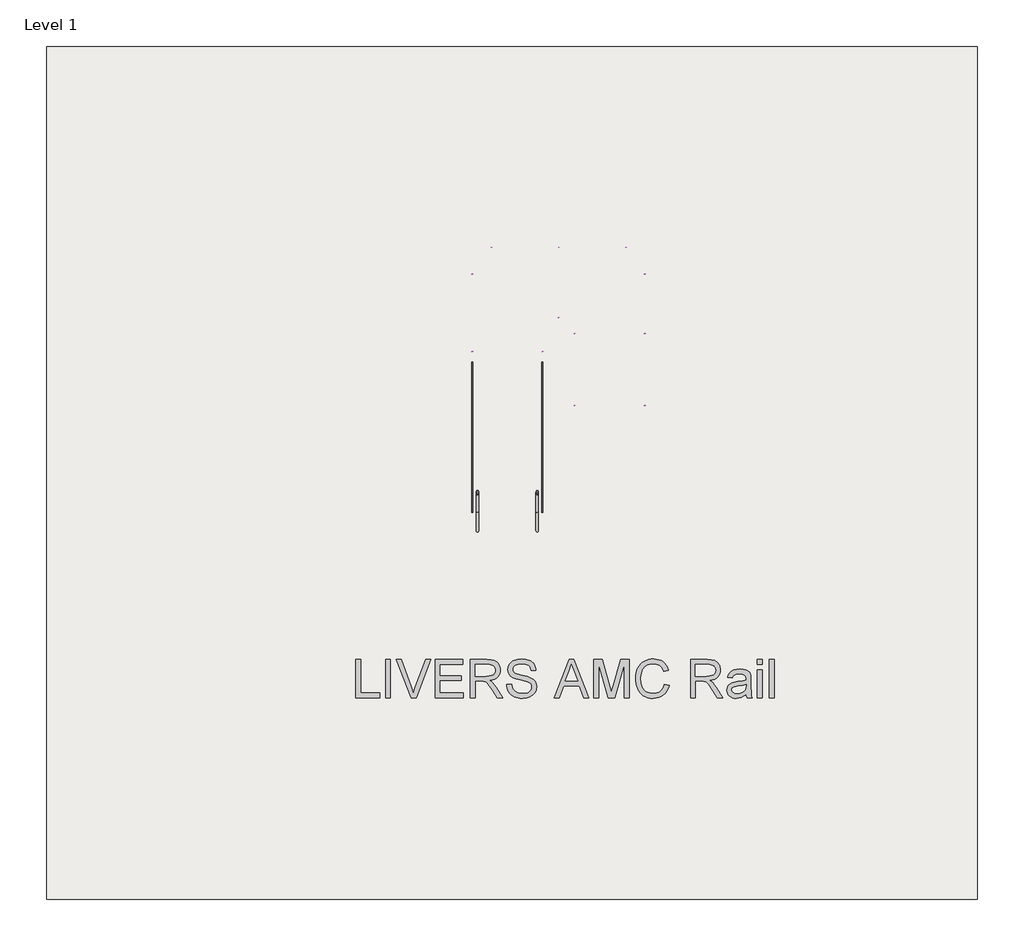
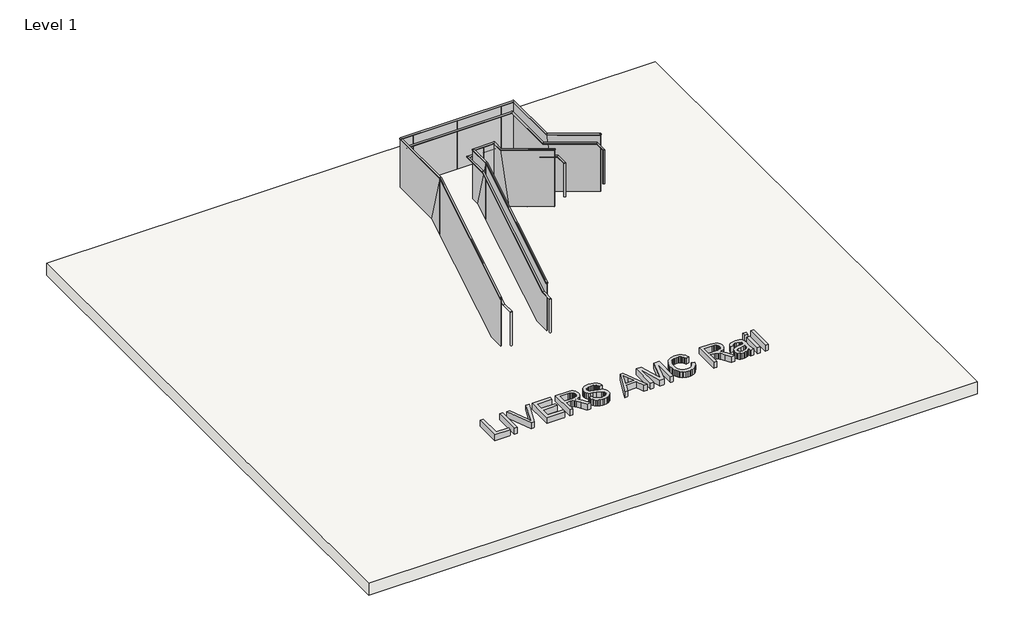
# One storey, incomplete: 15 proxies, 2 railings, 1 slab.
"""IFC4 building model written with IfcOpenShell, lengths in millimetres."""

from ifc_helpers import new_model, si_unit, frame, origin, origin_with_axes, place, context, project, spatial, polyline, circle_curve, ellipse_curve, outline, extrude, faceted_brep, transform, mapped, element, save
from ifc_brep_helpers import plane_surface, cylinder_surface, advanced_brep
from components import proxy_6f78a48f, proxy_2397db0d, proxy_ceb16a72, proxy_1c5ac6ef, proxy_60689a1d, proxy_a881e6c5, proxy_f612d073

model = new_model("IFC4")

# Units and contexts
model_context = context("Model", 3, world=origin())
ifc_project = project(units=[si_unit("LENGTHUNIT", "METRE", prefix="MILLI")], contexts=[model_context])

# Site, building, storey
site = spatial("IfcSite", under=ifc_project)
building = spatial("IfcBuilding", under=site)
storey = spatial("IfcBuildingStorey", under=building, Name="Level 1", Elevation=0.0)

# Proxies
placement = place(None, origin())
element("IfcBuildingElementProxy", 1, Name="24\" Arial", ObjectType="24\" Arial", at=placement, inside=storey, context=model_context, shape_type="SweptSolid", body=[
    extrude(outline(polyline([(7061.1001516, -636.9984238), (7061.1001516, -36.7768853), (7136.1278439, -36.7768853), (7136.1278439, -561.9707315), (7436.2386132, -561.9707315), (7436.2386132, -636.9984238), (7061.1001516, -636.9984238)])), origin_with_axes(), (0.0, 0.0, 1.0), 152.4),
    extrude(outline(polyline([(7530.0232286, -636.9984238), (7530.0232286, -36.7768853), (7605.0509209, -36.7768853), (7605.0509209, -636.9984238), (7530.0232286, -636.9984238)])), origin_with_axes(), (0.0, 0.0, 1.0), 152.4),
    extrude(outline(polyline([(7932.4178439, -636.9984238), (7693.5601516, -36.7768853), (7773.8632286, -36.7768853), (7933.7366901, -469.2118853), (7966.1216901, -566.6599622), (7998.0670747, -469.2118853), (8158.3801516, -36.7768853), (8238.6832286, -36.7768853), (8009.9366901, -636.9984238), (7932.4178439, -636.9984238)])), origin_with_axes(), (0.0, 0.0, 1.0), 152.4),
    extrude(outline(polyline([(8308.4355362, -636.9984238), (8308.4355362, -36.7768853), (8739.844767, -36.7768853), (8739.844767, -111.8045776), (8383.4632286, -111.8045776), (8383.4632286, -289.9953468), (8721.0878439, -289.9953468), (8721.0878439, -365.0230392), (8383.4632286, -365.0230392), (8383.4632286, -561.9707315), (8749.2232286, -561.9707315), (8749.2232286, -636.9984238), (8308.4355362, -636.9984238)])), origin_with_axes(), (0.0, 0.0, 1.0), 152.4),
    extrude(outline(polyline([(8861.764767, -636.9984238), (8861.764767, -36.7768853), (9120.4051516, -36.7768853), (9189.9193343, -40.8250103), (9240.4934209, -52.9693853), (9260.0105122, -62.6226065), (9277.4577478, -75.3897699), (9292.8351276, -91.2708757), (9306.1426516, -110.2659238), (9316.8811733, -131.3537242), (9324.5515459, -153.5130872), (9329.1537694, -176.7440127), (9330.6878439, -201.0465007), (9328.1463175, -231.8745295), (9320.5217382, -260.1747699), (9307.814106, -285.9472218), (9290.0234209, -309.1918853), (9266.9207165, -329.1669093), (9238.2770266, -345.130443), (9204.0923512, -357.0824863), (9164.3666901, -365.0230392), (9189.0950555, -381.1789045), (9207.0093824, -397.1149622), (9237.7458247, -433.5664045), (9267.8228439, -474.3407315), (9367.9086132, -636.9984238), (9280.7182286, -636.9984238), (9202.6132286, -512.5872699), (9146.1959209, -430.2326545), (9125.2226036, -406.2186642), (9106.557267, -391.326693), (9070.8751516, -377.039193), (9027.3532286, -374.4015007), (8936.7924593, -374.4015007), (8936.7924593, -636.9984238), (8861.764767, -636.9984238)]), holes=[polyline([(8936.7924593, -299.3738084), (9104.7255362, -299.3738084), (9152.9550074, -296.7177988), (9190.377267, -288.7497699), (9218.5492862, -274.9385199), (9239.0280362, -254.7528468), (9251.5021228, -230.3358757), (9255.6601516, -203.8307315), (9253.6773031, -184.6433517), (9247.7287574, -167.2327507), (9237.8145146, -151.5989286), (9223.9345747, -137.7418853), (9205.7683848, -126.3943132), (9182.995392, -118.2889045), (9155.6155963, -113.4256593), (9123.6289978, -111.8045776), (8936.7924593, -111.8045776), (8936.7924593, -299.3738084)])]), origin_with_axes(), (0.0, 0.0, 1.0), 152.4),
    extrude(outline(polyline([(9433.8509209, -430.6722699), (9508.8786132, -430.6722699), (9517.4877478, -472.3075103), (9533.0574593, -505.7732315), (9557.3462093, -532.3333276), (9592.1124593, -553.251693), (9634.6086132, -566.824818), (9682.0870747, -571.349193), (9723.8871709, -567.9238565), (9760.4851516, -557.6478468), (9790.1408728, -541.3820776), (9811.1141901, -519.9874622), (9823.5882766, -495.4239526), (9827.7463055, -469.6515007), (9824.6323632, -444.5384718), (9815.2905362, -422.8324622), (9796.3138055, -404.3136642), (9764.2951516, -388.7622699), (9655.0507286, -360.1140007), (9583.3384689, -341.1555872), (9537.4536132, -323.1130392), (9500.1046228, -297.8717892), (9473.6361132, -267.2818853), (9457.8649112, -232.0027507), (9452.6078439, -192.6938084), (9454.233505, -170.3512723), (9459.1104882, -148.7505872), (9467.2387935, -127.8917531), (9478.6184209, -107.7747699), (9493.1211492, -89.2193372), (9510.6187574, -73.0451545), (9531.1112454, -59.2522218), (9554.5986132, -47.8405392), (9607.3890939, -32.5089526), (9665.8213055, -27.3984238), (9729.1259209, -32.7470776), (9784.5174593, -48.7930392), (9808.7512574, -60.7450824), (9830.0176516, -75.2065968), (9848.316642, -92.1775824), (9863.6482286, -111.6580392), (9875.8933487, -133.0801305), (9884.9329401, -155.8760199), (9890.7670026, -180.0457074), (9893.3955362, -205.589193), (9818.3678439, -205.589193), (9813.3489016, -181.6484718), (9804.5932286, -160.821693), (9792.1008247, -143.1088565), (9775.8716901, -128.5099622), (9755.6035891, -117.0982795), (9730.9942862, -108.9470776), (9702.0437814, -104.0563565), (9668.7520747, -102.4261161), (9634.3979641, -104.0380392), (9605.0444786, -108.8738084), (9580.691618, -116.9334238), (9561.3393824, -128.2168853), (9546.5939497, -141.7808517), (9536.0614978, -156.6819815), (9529.7420266, -172.9202747), (9527.6355362, -190.4957315), (9529.1283968, -205.616669), (9533.6069786, -219.3271738), (9541.0712814, -231.6272459), (9551.5213055, -242.5168853), (9567.9702478, -252.8295295), (9593.8709209, -263.2520776), (9674.0274593, -284.4268853), (9756.7484209, -304.5392892), (9806.7913055, -322.0872699), (9849.5622189, -349.3067892), (9866.0981685, -365.3069574), (9879.4011132, -382.9007315), (9889.6267502, -401.9965247), (9896.9307766, -422.5027507), (9902.7739978, -467.7465007), (9901.0933848, -491.2155512), (9896.0515459, -513.9977026), (9887.648481, -536.092955), (9875.8841901, -557.5013084), (9860.964743, -577.3939045), (9843.0962093, -594.9418853), (9822.2785891, -610.1452507), (9798.5118824, -623.0040007), (9772.4875675, -633.2296377), (9744.8971228, -640.5336642), (9685.0178439, -646.3768853), (9646.638505, -644.8015968), (9611.5104882, -640.0757315), (9579.6337935, -632.1992892), (9551.0084209, -621.1722699), (9525.460356, -606.9763565), (9502.8155843, -589.5932315), (9483.074106, -569.0228949), (9466.2359209, -545.2653468), (9452.6719545, -519.0899142), (9442.7531324, -491.2659238), (9436.4794545, -461.7933757), (9433.8509209, -430.6722699)])), origin_with_axes(), (0.0, 0.0, 1.0), 152.4),
    extrude(outline(polyline([(10179.8782286, -636.9984238), (10419.4686132, -36.7768853), (10483.3593824, -36.7768853), (10722.949767, -636.9984238), (10643.6724593, -636.9984238), (10574.9459209, -449.429193), (10327.7355362, -449.429193), (10259.1555362, -636.9984238), (10179.8782286, -636.9984238)]), holes=[polyline([(10355.284767, -374.4015007), (10547.5432286, -374.4015007), (10493.4705362, -226.8372699), (10451.4139978, -111.8045776), (10414.0466901, -213.9418853), (10355.284767, -374.4015007)])]), origin_with_axes(), (0.0, 0.0, 1.0), 152.4),
    extrude(outline(polyline([(10803.1063055, -636.9984238), (10803.1063055, -36.7768853), (10932.2066901, -36.7768853), (11055.0059209, -459.8334238), (11079.7709209, -548.1961161), (11106.5874593, -452.5065007), (11227.3351516, -36.7768853), (11356.4355362, -36.7768853), (11356.4355362, -636.9984238), (11281.4078439, -636.9984238), (11281.4078439, -111.8045776), (11130.619767, -636.9984238), (11028.9220747, -636.9984238), (10878.1339978, -111.8045776), (10878.1339978, -636.9984238), (10803.1063055, -636.9984238)])), origin_with_axes(), (0.0, 0.0, 1.0), 152.4),
    extrude(outline(polyline([(11909.764767, -423.6384238), (11984.7924593, -442.9815007), (11969.9462814, -489.6402627), (11950.1727478, -530.4100103), (11925.4718584, -565.2907435), (11895.8436132, -594.2824622), (11861.9565939, -617.0737723), (11824.4793824, -633.3532795), (11783.4119786, -643.1209839), (11738.7543824, -646.3768853), (11693.0023271, -643.9132074), (11651.7288536, -636.5221738), (11614.9339617, -624.2037843), (11582.6176516, -606.9580392), (11554.3357286, -585.0413805), (11529.6439978, -558.7102507), (11508.5424593, -527.9646497), (11491.0311132, -492.8045776), (11477.2793944, -454.7503709), (11467.4567382, -415.3223661), (11461.5631444, -374.5205632), (11459.5986132, -332.3449622), (11461.8195867, -287.0920536), (11468.4825074, -244.8248661), (11479.5873752, -205.5433997), (11495.1341901, -169.2476545), (11514.7749233, -136.5375223), (11538.1615459, -108.0128949), (11565.2940579, -83.6737723), (11596.1724593, -63.5201545), (11629.7480843, -47.7168973), (11664.972267, -36.4288565), (11701.8450074, -29.6560319), (11740.3663055, -27.3984238), (11783.2791781, -30.3200343), (11822.6293343, -39.0848661), (11858.4167742, -53.692919), (11890.6414978, -74.144193), (11918.7723031, -99.8983276), (11942.2779882, -130.4149622), (11961.1585531, -165.6940968), (11975.4139978, -205.7357315), (11900.3863055, -223.6134238), (11888.571642, -194.1088204), (11874.3757286, -168.8996257), (11857.7985651, -147.9858396), (11838.8401516, -131.3674622), (11817.3905843, -118.7056233), (11793.3399593, -109.6614526), (11766.6882766, -104.2349502), (11737.4355362, -102.4261161), (11703.7774834, -104.4318613), (11672.9952478, -110.4490968), (11645.0888295, -120.4778228), (11620.0582286, -134.5180392), (11598.2194185, -151.9377988), (11579.8883728, -172.1051545), (11565.0650915, -195.0201065), (11553.7495747, -220.6826545), (11539.4071228, -275.597943), (11534.6263055, -332.1984238), (11540.2863536, -401.5111161), (11547.3614137, -432.6505392), (11557.2664978, -461.4453468), (11570.1618824, -487.3231233), (11586.2078439, -509.7114526), (11605.4043824, -528.6103348), (11627.7514978, -544.0197699), (11652.1638896, -555.9763925), (11677.5562574, -564.5168372), (11703.9286012, -569.6411041), (11731.2809209, -571.349193), (11763.8994665, -569.0228949), (11793.9077959, -562.0440007), (11821.3059088, -550.4125103), (11846.0938055, -534.1284238), (11867.6853319, -513.2650103), (11885.4943343, -487.8955392), (11899.5208127, -458.0200103), (11909.764767, -423.6384238)])), origin_with_axes(), (0.0, 0.0, 1.0), 152.4),
    extrude(outline(polyline([(12322.4170747, -636.9984238), (12322.4170747, -36.7768853), (12581.0574593, -36.7768853), (12650.571642, -40.8250103), (12701.1457286, -52.9693853), (12720.6628199, -62.6226065), (12738.1100555, -75.3897699), (12753.4874353, -91.2708757), (12766.7949593, -110.2659238), (12777.533481, -131.3537242), (12785.2038536, -153.5130872), (12789.8060771, -176.7440127), (12791.3401516, -201.0465007), (12788.7986252, -231.8745295), (12781.1740459, -260.1747699), (12768.4664137, -285.9472218), (12750.6757286, -309.1918853), (12727.5730242, -329.1669093), (12698.9293343, -345.130443), (12664.7446588, -357.0824863), (12625.0189978, -365.0230392), (12649.7473632, -381.1789045), (12667.6616901, -397.1149622), (12698.3981324, -433.5664045), (12728.4751516, -474.3407315), (12828.5609209, -636.9984238), (12741.3705362, -636.9984238), (12663.2655362, -512.5872699), (12606.8482286, -430.2326545), (12585.8749112, -406.2186642), (12567.2095747, -391.326693), (12531.5274593, -377.039193), (12488.0055362, -374.4015007), (12397.444767, -374.4015007), (12397.444767, -636.9984238), (12322.4170747, -636.9984238)]), holes=[polyline([(12397.444767, -299.3738084), (12565.3778439, -299.3738084), (12613.6073151, -296.7177988), (12651.0295747, -288.7497699), (12679.2015939, -274.9385199), (12699.6803439, -254.7528468), (12712.1544305, -230.3358757), (12716.3124593, -203.8307315), (12714.3296108, -184.6433517), (12708.3810651, -167.2327507), (12698.4668223, -151.5989286), (12684.5868824, -137.7418853), (12666.4206925, -126.3943132), (12643.6476997, -118.2889045), (12616.267904, -113.4256593), (12584.2813055, -111.8045776), (12397.444767, -111.8045776), (12397.444767, -299.3738084)])]), origin_with_axes(), (0.0, 0.0, 1.0), 152.4),
    extrude(outline(polyline([(13194.6139978, -580.7276545), (13158.7670266, -611.4640968), (13121.8576516, -631.5765007), (13083.0432766, -642.6767892), (13041.4813055, -646.3768853), (13008.0751156, -644.1513324), (12978.7811612, -637.4746738), (12953.5994425, -626.3469093), (12932.5299593, -610.7680392), (12915.8932646, -591.7271978), (12904.0099112, -570.2135199), (12896.8798992, -546.2270055), (12894.5032286, -519.7676545), (12898.0934209, -488.6648661), (12908.8639978, -460.4195776), (12925.4777959, -436.2407315), (12946.5976516, -417.3372699), (12971.4176036, -403.0497699), (12999.1316901, -392.7188084), (13064.0482286, -381.4353468), (13140.7611132, -369.5657315), (13194.1743824, -355.6445776), (13194.6139978, -338.939193), (13189.448517, -305.4551545), (13182.9916661, -293.0543372), (13173.9520747, -283.5476545), (13158.3274112, -274.0592892), (13139.2957286, -267.2818853), (13091.0113055, -261.8599622), (13046.3170747, -265.4684718), (13015.1043824, -276.2940007), (12993.8196709, -296.314818), (12978.9093824, -327.509193), (12903.8816901, -318.1307315), (12916.9052959, -277.0999622), (12936.3399593, -244.8615007), (12963.9990939, -220.2064045), (13001.6961132, -201.9257315), (13047.8007766, -190.6056353), (13100.6828439, -186.8322699), (13151.4034689, -190.1660199), (13191.6099593, -200.1672699), (13221.9251036, -215.2057795), (13242.9716901, -233.6513084), (13256.9294786, -256.4563565), (13265.9782286, -284.5734238), (13269.6416901, -350.2226545), (13269.6416901, -443.5676545), (13273.4516901, -573.9136161), (13279.0934209, -606.1337603), (13288.3986132, -636.9984238), (13213.3709209, -636.9984238), (13201.354767, -610.9145776), (13194.6139978, -580.7276545)]), holes=[polyline([(13194.6139978, -430.6722699), (13144.204767, -443.1646738), (13073.5732286, -453.6788084), (13009.0230362, -465.8415007), (12992.2260651, -474.1575584), (12979.7886132, -485.624193), (12972.0953439, -499.3621738), (12969.5309209, -514.4922699), (12975.1176997, -536.8027507), (12991.8780362, -555.0834238), (13019.4455843, -567.2827507), (13057.4539978, -571.349193), (13097.7520747, -566.8614526), (13133.3609209, -553.3982315), (13162.2289978, -533.5605872), (13182.304767, -509.9495776), (13191.2069786, -485.624193), (13194.1743824, -451.9203468), (13194.6139978, -430.6722699)])]), origin_with_axes(), (0.0, 0.0, 1.0), 152.4),
    extrude(outline(polyline([(13372.804767, -636.9984238), (13372.804767, -196.2107315), (13447.8324593, -196.2107315), (13447.8324593, -636.9984238), (13372.804767, -636.9984238)])), origin_with_axes(), (0.0, 0.0, 1.0), 152.4),
    extrude(outline(polyline([(13372.804767, -111.8045776), (13372.804767, -36.7768853), (13447.8324593, -36.7768853), (13447.8324593, -111.8045776), (13372.804767, -111.8045776)])), origin_with_axes(), (0.0, 0.0, 1.0), 152.4),
    extrude(outline(polyline([(13560.3739978, -636.9984238), (13560.3739978, -36.7768853), (13635.4016901, -36.7768853), (13635.4016901, -636.9984238), (13560.3739978, -636.9984238)])), origin_with_axes(), (0.0, 0.0, 1.0), 152.4),
])
proxy_shape = proxy_6f78a48f(model_context)
element("IfcBuildingElementProxy", 2, Name="GLASS : 1/2\" GLASS", ObjectType="GLASS : 1/2\" GLASS", at=placement, inside=storey, context=model_context, shape_type="MappedRepresentation", body=[
    mapped(proxy_shape, transform((9188.3984545, 6443.2609109, 2722.0333333), x_axis=(1.0, 0.0, 0.0), y_axis=(0.0, 0.0, 1.0), z_axis=(0.0, -1.0, 0.0))),
])
element("IfcBuildingElementProxy", 3, Name="GLASS : 1/2\" GLASS", ObjectType="GLASS : 1/2\" GLASS", at=placement, inside=storey, context=model_context, shape_type="MappedRepresentation", body=[
    mapped(proxy_shape, transform((10247.2074566, 6443.2609109, 2722.0333333), x_axis=(1.0, 0.0, 0.0), y_axis=(0.0, 0.0, 1.0), z_axis=(0.0, -1.0, 0.0))),
])
element("IfcBuildingElementProxy", 4, Name="GLASS : 1/2\" GLASS", ObjectType="GLASS : 1/2\" GLASS", at=placement, inside=storey, context=model_context, shape_type="MappedRepresentation", body=[
    mapped(proxy_shape, transform((11604.4664586, 6024.2007237, 2722.0333333), x_axis=(0.0, -1.0, 0.0), y_axis=(0.0, 0.0, 1.0), z_axis=(-1.0, 0.0, 0.0))),
])
element("IfcBuildingElementProxy", 5, Name="GLASS : 1/2\" GLASS", ObjectType="GLASS : 1/2\" GLASS", at=placement, inside=storey, context=model_context, shape_type="MappedRepresentation", body=[
    mapped(proxy_shape, transform((11604.4664586, 5087.1978242, 2722.0333333), x_axis=(0.0, -1.0, 0.0), y_axis=(0.0, 0.0, 1.0), z_axis=(-1.0, 0.0, 0.0))),
])
element("IfcBuildingElementProxy", 6, Name="GLASS : 1/2\" GLASS", ObjectType="GLASS : 1/2\" GLASS", at=placement, inside=storey, context=model_context, shape_type="MappedRepresentation", body=[
    mapped(proxy_shape, transform((10247.2074566, 5338.3609109, 2722.0333333), x_axis=(-1.0, 0.0, 0.0), y_axis=(0.0, 0.0, 1.0), z_axis=(0.0, 1.0, 0.0))),
])
element("IfcBuildingElementProxy", 7, Name="GLASS : 1/2\" GLASS", ObjectType="GLASS : 1/2\" GLASS", at=placement, inside=storey, context=model_context, shape_type="MappedRepresentation", body=[
    mapped(proxy_shape, transform((10499.5664586, 5086.6546682, 2722.0333333), x_axis=(0.0, 1.0, 0.0), y_axis=(0.0, 0.0, 1.0), z_axis=(1.0, 0.0, 0.0))),
])
element("IfcBuildingElementProxy", 8, Name="GLASS : 1/2\" GLASS", ObjectType="GLASS : 1/2\" GLASS", at=placement, inside=storey, context=model_context, shape_type="MappedRepresentation", body=[
    mapped(proxy_shape, transform((8889.9484545, 6024.1609109, 2722.0333333), x_axis=(0.0, 1.0, 0.0), y_axis=(0.0, 0.0, 1.0), z_axis=(1.0, 0.0, 0.0))),
])
element("IfcBuildingElementProxy", 9, Name="GLASS : 1/2\" GLASS", ObjectType="GLASS : 1/2\" GLASS", at=placement, inside=storey, context=model_context, shape_type="MappedRepresentation", body=[
    mapped(proxy_shape, transform((11306.0386109, 6443.2609109, 2722.0333333), x_axis=(1.0, 0.0, 0.0), y_axis=(0.0, 0.0, 1.0), z_axis=(0.0, -1.0, 0.0))),
])
proxy_2_shape = proxy_2397db0d(model_context)
element("IfcBuildingElementProxy", 10, Name="GLASS : 1/2\" GLASS", ObjectType="GLASS : 1/2\" GLASS", at=placement, inside=storey, context=model_context, shape_type="MappedRepresentation", body=[
    mapped(proxy_2_shape, transform((8889.9484545, 3617.3256141, 2014.1526529), x_axis=(0.0, 1.0, 0.0), y_axis=(0.0, 0.0, 1.0), z_axis=(1.0, 0.0, 0.0))),
])
proxy_3_shape = proxy_ceb16a72(model_context)
element("IfcBuildingElementProxy", 11, Name="GLASS : 1/2\" GLASS", ObjectType="GLASS : 1/2\" GLASS", at=placement, inside=storey, context=model_context, shape_type="MappedRepresentation", body=[
    mapped(proxy_3_shape, transform((8889.9484545, 4806.5440435, 2722.0333333), x_axis=(0.0, 1.0, 0.0), y_axis=(0.0, 0.0, 1.0), z_axis=(1.0, 0.0, 0.0))),
])
proxy_4_shape = proxy_1c5ac6ef(model_context)
element("IfcBuildingElementProxy", 12, Name="GLASS : 1/2\" GLASS", ObjectType="GLASS : 1/2\" GLASS", at=placement, inside=storey, context=model_context, shape_type="MappedRepresentation", body=[
    mapped(proxy_4_shape, transform((9994.8484545, 3625.1929733, 2016.1913432), x_axis=(0.0, -1.0, 0.0), y_axis=(0.0, 0.0, 1.0), z_axis=(-1.0, 0.0, 0.0))),
])
proxy_5_shape = proxy_60689a1d(model_context)
element("IfcBuildingElementProxy", 13, Name="GLASS : 1/2\" GLASS", ObjectType="GLASS : 1/2\" GLASS", at=placement, inside=storey, context=model_context, shape_type="MappedRepresentation", body=[
    mapped(proxy_5_shape, transform((9994.8484545, 4806.5440435, 2722.0333333), x_axis=(0.0, -1.0, 0.0), y_axis=(0.0, 0.0, 1.0), z_axis=(-1.0, 0.0, 0.0))),
])
proxy_6_shape = proxy_a881e6c5(model_context)
element("IfcBuildingElementProxy", 14, Name="GLASS : 1/2\" GLASS", ObjectType="GLASS : 1/2\" GLASS", at=placement, inside=storey, context=model_context, shape_type="MappedRepresentation", body=[
    mapped(proxy_6_shape, transform((10499.5664586, 3958.4097675, 3395.2590846), x_axis=(0.0, 1.0, 0.0), y_axis=(0.0, 0.0, 1.0), z_axis=(1.0, 0.0, 0.0))),
])
proxy_7_shape = proxy_f612d073(model_context)
element("IfcBuildingElementProxy", 15, Name="GLASS : 1/2\" GLASS", ObjectType="GLASS : 1/2\" GLASS", at=placement, inside=storey, context=model_context, shape_type="MappedRepresentation", body=[
    mapped(proxy_7_shape, transform((11604.4664586, 3957.5391996, 3395.7867016), x_axis=(0.0, -1.0, 0.0), y_axis=(0.0, 0.0, 1.0), z_axis=(-1.0, 0.0, 0.0))),
])

# Railings
element("IfcRailing", 16, ObjectType="LIVERS_AMC - Rail", at=placement, inside=storey, context=model_context, shape_type="SolidModel", body=[
    advanced_brep(
    [(8991.5484545, 1989.4822571, 169.3333333), (8953.4484545, 1989.4822571, 169.3333333), (8991.5484545, 1989.4822571, 1013.8833333), (8953.4484545, 1989.4822571, 1013.8833333), (8991.5484545, 2280.5544107, 1013.8833333), (8953.4484545, 2280.5544107, 1013.8833333), (8991.5484545, 4795.1544107, 2537.8833333), (8953.4484545, 4795.1544107, 2537.8833333), (8991.5484545, 6341.6609109, 2537.8833333), (8953.4484545, 6379.7609109, 2537.8833333), (11502.8664586, 6341.6609109, 2537.8833333), (11540.9664586, 6379.7609109, 2537.8833333), (11502.8664586, 5063.9101036, 2537.8833333), (11540.9664586, 5063.9101036, 2537.8833333), (11502.8664586, 2828.7101036, 3892.55), (11540.9664586, 2828.7101036, 3892.55), (11502.8664586, 2548.2822571, 3892.55), (11540.9664586, 2548.2822571, 3892.55), (11502.8664586, 2548.2822571, 3048.0), (11540.9664586, 2548.2822571, 3048.0)],
    [
        (0, 1, circle_curve(frame((8972.4984545, 1989.4822571, 169.3333333), z_axis=(0.0, 0.0, -1.0), x_axis=(-1.0, 0.0, 0.0)), 19.05)),
        (1, 0, circle_curve(frame((8972.4984545, 1989.4822571, 169.3333333), z_axis=(0.0, 0.0, -1.0), x_axis=(-1.0, 0.0, 0.0)), 19.05)),
        (0, 2),
        (2, 3, ellipse_curve(frame((8972.4984545, 1989.4822571, 1013.8833333), z_axis=(0.0, -0.7071067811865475, -0.7071067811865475), x_axis=(0.0, 0.7071067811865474, -0.7071067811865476)), 26.9407684, 19.05)),
        (3, 1),
        (3, 2, ellipse_curve(frame((8972.4984545, 1989.4822571, 1013.8833333), z_axis=(0.0, -0.7071067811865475, -0.7071067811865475), x_axis=(0.0, 0.7071067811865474, -0.7071067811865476)), 26.9407684, 19.05)),
        (2, 4),
        (4, 5, ellipse_curve(frame((8972.4984545, 2280.5544107, 1013.8833333), z_axis=(0.0, -0.9631193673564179, -0.2690744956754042), x_axis=(0.0, -0.26907449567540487, 0.9631193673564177)), 19.7794797, 19.05)),
        (5, 3),
        (5, 4, ellipse_curve(frame((8972.4984545, 2280.5544107, 1013.8833333), z_axis=(0.0, -0.9631193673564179, -0.2690744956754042), x_axis=(0.0, -0.26907449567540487, 0.9631193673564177)), 19.7794797, 19.05)),
        (4, 6),
        (6, 7, ellipse_curve(frame((8972.4984545, 4795.1544107, 2537.8833333), z_axis=(0.0, -0.9631193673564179, -0.2690744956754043), x_axis=(0.0, 0.2690744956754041, -0.9631193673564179)), 19.7794797, 19.05)),
        (7, 5),
        (7, 6, ellipse_curve(frame((8972.4984545, 4795.1544107, 2537.8833333), z_axis=(0.0, -0.9631193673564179, -0.2690744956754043), x_axis=(0.0, 0.2690744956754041, -0.9631193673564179)), 19.7794797, 19.05)),
        (6, 8),
        (8, 9, ellipse_curve(frame((8972.4984545, 6360.7109109, 2537.8833333), z_axis=(-0.7071067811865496, -0.7071067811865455, 0.0), x_axis=(0.7071067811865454, -0.7071067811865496, 0.0)), 26.9407684, 19.05)),
        (9, 7),
        (9, 8, ellipse_curve(frame((8972.4984545, 6360.7109109, 2537.8833333), z_axis=(-0.7071067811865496, -0.7071067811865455, 0.0), x_axis=(0.7071067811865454, -0.7071067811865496, 0.0)), 26.9407684, 19.05)),
        (8, 10),
        (10, 11, ellipse_curve(frame((11521.9164586, 6360.7109109, 2537.8833333), z_axis=(-0.7071067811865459, 0.7071067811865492, 0.0), x_axis=(-0.707106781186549, -0.7071067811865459, 0.0)), 26.9407684, 19.05)),
        (11, 9),
        (11, 10, ellipse_curve(frame((11521.9164586, 6360.7109109, 2537.8833333), z_axis=(-0.7071067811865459, 0.7071067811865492, 0.0), x_axis=(-0.707106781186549, -0.7071067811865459, 0.0)), 26.9407684, 19.05)),
        (10, 12),
        (12, 13, ellipse_curve(frame((11521.9164586, 5063.9101036, 2537.8833333), z_axis=(0.0, 0.9631193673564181, -0.26907449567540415), x_axis=(0.0, 0.26907449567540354, 0.9631193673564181)), 19.7794797, 19.05)),
        (13, 11),
        (13, 12, ellipse_curve(frame((11521.9164586, 5063.9101036, 2537.8833333), z_axis=(0.0, 0.9631193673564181, -0.26907449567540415), x_axis=(0.0, 0.26907449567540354, 0.9631193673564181)), 19.7794797, 19.05)),
        (12, 14),
        (14, 15, ellipse_curve(frame((11521.9164586, 2828.7101036, 3892.55), z_axis=(0.0, 0.9631193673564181, -0.26907449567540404), x_axis=(0.0, -0.2690744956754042, -0.963119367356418)), 19.7794797, 19.05)),
        (15, 13),
        (15, 14, ellipse_curve(frame((11521.9164586, 2828.7101036, 3892.55), z_axis=(0.0, 0.9631193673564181, -0.26907449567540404), x_axis=(0.0, -0.2690744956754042, -0.963119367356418)), 19.7794797, 19.05)),
        (14, 16),
        (16, 17, ellipse_curve(frame((11521.9164586, 2548.2822571, 3892.55), z_axis=(0.0, 0.7071067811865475, 0.7071067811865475), x_axis=(0.0, 0.7071067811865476, -0.7071067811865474)), 26.9407684, 19.05)),
        (17, 15),
        (17, 16, ellipse_curve(frame((11521.9164586, 2548.2822571, 3892.55), z_axis=(0.0, 0.7071067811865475, 0.7071067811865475), x_axis=(0.0, 0.7071067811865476, -0.7071067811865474)), 26.9407684, 19.05)),
        (18, 19, circle_curve(frame((11521.9164586, 2548.2822571, 3048.0), z_axis=(0.0, 0.0, -1.0), x_axis=(1.0, 0.0, 0.0)), 19.05)),
        (19, 18, circle_curve(frame((11521.9164586, 2548.2822571, 3048.0), z_axis=(0.0, 0.0, -1.0), x_axis=(1.0, 0.0, 0.0)), 19.05)),
        (16, 18),
        (19, 17),
    ],
    [
        plane_surface(frame((8972.4984545, 1932.3322571, 169.3333333), z_axis=(0.0, 0.0, -1.0), x_axis=(1.0, 0.0, 0.0))),
        cylinder_surface(frame((8972.4984545, 1989.4822571, 169.3333333), z_axis=(0.0, 0.0, -1.0), x_axis=(-1.0, 0.0, 0.0)), 19.05),
        cylinder_surface(frame((8972.4984545, 1970.4322571, 1013.8833333), z_axis=(0.0, -1.0, 0.0), x_axis=(-1.0, 0.0, 0.0)), 19.05),
        cylinder_surface(frame((8972.4984545, 2285.1059048, 1016.6418146), z_axis=(0.0, -0.8551978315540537, -0.5183017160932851), x_axis=(-1.0, 0.0, 0.0)), 19.05),
        cylinder_surface(frame((8972.4984545, 4789.8322571, 2537.8833333), z_axis=(0.0, -1.0, 0.0), x_axis=(-1.0, 0.0, 0.0)), 19.05),
        cylinder_surface(frame((8972.4984545, 6360.7109109, 2537.8833333), z_axis=(-1.0, 0.0, 0.0), x_axis=(0.0, 1.0, 0.0)), 19.05),
        cylinder_surface(frame((11521.9164586, 6360.7109109, 2537.8833333), z_axis=(0.0, 1.0, 0.0), x_axis=(1.0, 0.0, 0.0)), 19.05),
        cylinder_surface(frame((11521.9164586, 5059.3586095, 2540.6418146), z_axis=(0.0, 0.8551978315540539, -0.5183017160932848), x_axis=(1.0, 0.0, 0.0)), 19.05),
        cylinder_surface(frame((11521.9164586, 2834.0322571, 3892.55), z_axis=(0.0, 1.0, 0.0), x_axis=(1.0, 0.0, 0.0)), 19.05),
        plane_surface(frame((11521.9164586, 2491.1322571, 3048.0), z_axis=(0.0, 0.0, -1.0), x_axis=(-1.0, 0.0, 0.0))),
        cylinder_surface(frame((11521.9164586, 2548.2822571, 3911.6), z_axis=(0.0, 0.0, 1.0), x_axis=(1.0, 0.0, 0.0)), 19.05),
    ],
    [
        (0, [[1, 2]]),
        (1, [[-1, 3, 4, 5]]),
        (1, [[-2, -5, 6, -3]]),
        (2, [[-4, 7, 8, 9]]),
        (2, [[-6, -9, 10, -7]]),
        (3, [[-8, 11, 12, 13]]),
        (3, [[-10, -13, 14, -11]]),
        (4, [[-12, 15, 16, 17]]),
        (4, [[-14, -17, 18, -15]]),
        (5, [[-16, 19, 20, 21]]),
        (5, [[-18, -21, 22, -19]]),
        (6, [[-20, 23, 24, 25]]),
        (6, [[-22, -25, 26, -23]]),
        (7, [[-24, 27, 28, 29]]),
        (7, [[-26, -29, 30, -27]]),
        (8, [[-28, 31, 32, 33]]),
        (8, [[-30, -33, 34, -31]]),
        (9, [[35, 36]]),
        (10, [[-32, 37, -36, 38]]),
        (10, [[-34, -38, -35, -37]]),
    ],
),
    faceted_brep([(8882.0109545, 2275.2322571, 1223.4333333), (8882.0109545, 2275.2322571, -231.9024429), (8897.8859545, 2275.2322571, -231.9024429), (8897.8859545, 2275.2322571, 1223.4333333), (8882.0109545, 4789.8322571, 2747.4333333), (8882.0109545, 5137.5462879, 1502.8333333), (8897.8859545, 5137.5462879, 1502.8333333), (8897.8859545, 4789.8322571, 2747.4333333), (8882.0109545, 6451.1984109, 2747.4333333), (8882.0109545, 6451.1984109, 1502.8333333), (8897.8859545, 6435.3234109, 1502.8333333), (8897.8859545, 6435.3234109, 2747.4333333), (11612.4039586, 6451.1984109, 2747.4333333), (11612.4039586, 6451.1984109, 1502.8333333), (11596.5289586, 6435.3234109, 1502.8333333), (11596.5289586, 6435.3234109, 2747.4333333), (11612.4039586, 5069.2322571, 2747.4333333), (11612.4039586, 4721.5182264, 1502.8333333), (11596.5289586, 4721.5182264, 1502.8333333), (11596.5289586, 5069.2322571, 2747.4333333), (11612.4039586, 2834.0322571, 4102.1), (11596.5289586, 2834.0322571, 4102.1), (11596.5289586, 2834.0322571, 2646.7642238), (11612.4039586, 2834.0322571, 2646.7642238)], [[[0, 1, 2, 3]], [[1, 0, 4, 5]], [[2, 1, 5, 6]], [[3, 2, 6, 7]], [[0, 3, 7, 4]], [[5, 4, 8, 9]], [[6, 5, 9, 10]], [[7, 6, 10, 11]], [[4, 7, 11, 8]], [[9, 8, 12, 13]], [[10, 9, 13, 14]], [[11, 10, 14, 15]], [[8, 11, 15, 12]], [[13, 12, 16, 17]], [[14, 13, 17, 18]], [[15, 14, 18, 19]], [[12, 15, 19, 16]], [[20, 21, 22, 23]], [[17, 16, 20, 23]], [[18, 17, 23, 22]], [[19, 18, 22, 21]], [[16, 19, 21, 20]]]),
    advanced_brep(
    [(8908.9984545, 2275.2322571, 1213.8577857), (8870.8984545, 2275.2322571, 1213.8577857), (8908.9984545, 4795.1544107, 2741.0833333), (8870.8984545, 4795.1544107, 2741.0833333), (8908.9984545, 6424.2109109, 2741.0833333), (8870.8984545, 6462.3109109, 2741.0833333), (11585.4164586, 6424.2109109, 2741.0833333), (11623.5164586, 6462.3109109, 2741.0833333), (11585.4164586, 5063.9101036, 2741.0833333), (11623.5164586, 5063.9101036, 2741.0833333), (11585.4164586, 2834.0322571, 4092.5244524), (11623.5164586, 2834.0322571, 4092.5244524)],
    [
        (0, 1, ellipse_curve(frame((8889.9484545, 2275.2322571, 1213.8577857), z_axis=(0.0, -1.0, 0.0), x_axis=(0.0, 0.0, -1.0)), 22.2755476, 19.05)),
        (1, 0, ellipse_curve(frame((8889.9484545, 2275.2322571, 1213.8577857), z_axis=(0.0, -1.0, 0.0), x_axis=(0.0, 0.0, -1.0)), 22.2755476, 19.05)),
        (0, 2),
        (2, 3, ellipse_curve(frame((8889.9484545, 4795.1544107, 2741.0833333), z_axis=(0.0, -0.963119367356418, -0.26907449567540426), x_axis=(0.0, 0.26907449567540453, -0.9631193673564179)), 19.7794797, 19.05)),
        (3, 1),
        (3, 2, ellipse_curve(frame((8889.9484545, 4795.1544107, 2741.0833333), z_axis=(0.0, -0.963119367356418, -0.26907449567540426), x_axis=(0.0, 0.26907449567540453, -0.9631193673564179)), 19.7794797, 19.05)),
        (2, 4),
        (4, 5, ellipse_curve(frame((8889.9484545, 6443.2609109, 2741.0833333), z_axis=(-0.7071067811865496, -0.7071067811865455, 0.0), x_axis=(0.7071067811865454, -0.7071067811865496, 0.0)), 26.9407684, 19.05)),
        (5, 3),
        (5, 4, ellipse_curve(frame((8889.9484545, 6443.2609109, 2741.0833333), z_axis=(-0.7071067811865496, -0.7071067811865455, 0.0), x_axis=(0.7071067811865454, -0.7071067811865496, 0.0)), 26.9407684, 19.05)),
        (4, 6),
        (6, 7, ellipse_curve(frame((11604.4664586, 6443.2609109, 2741.0833333), z_axis=(-0.7071067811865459, 0.7071067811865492, 0.0), x_axis=(-0.707106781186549, -0.7071067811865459, 0.0)), 26.9407684, 19.05)),
        (7, 5),
        (7, 6, ellipse_curve(frame((11604.4664586, 6443.2609109, 2741.0833333), z_axis=(-0.7071067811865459, 0.7071067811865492, 0.0), x_axis=(-0.707106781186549, -0.7071067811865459, 0.0)), 26.9407684, 19.05)),
        (6, 8),
        (8, 9, ellipse_curve(frame((11604.4664586, 5063.9101036, 2741.0833333), z_axis=(0.0, 0.9631193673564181, -0.2690744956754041), x_axis=(0.0, 0.26907449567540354, 0.9631193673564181)), 19.7794797, 19.05)),
        (9, 7),
        (9, 8, ellipse_curve(frame((11604.4664586, 5063.9101036, 2741.0833333), z_axis=(0.0, 0.9631193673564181, -0.2690744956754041), x_axis=(0.0, 0.26907449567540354, 0.9631193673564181)), 19.7794797, 19.05)),
        (10, 11, ellipse_curve(frame((11604.4664586, 2834.0322571, 4092.5244524), z_axis=(0.0, -1.0, 0.0), x_axis=(0.0, 0.0, -1.0)), 22.2755476, 19.05)),
        (11, 10, ellipse_curve(frame((11604.4664586, 2834.0322571, 4092.5244524), z_axis=(0.0, -1.0, 0.0), x_axis=(0.0, 0.0, -1.0)), 22.2755476, 19.05)),
        (8, 10),
        (11, 9),
    ],
    [
        plane_surface(frame((8889.9484545, 2275.2322571, 1236.1333333), z_axis=(0.0, -1.0, 0.0), x_axis=(0.0, 0.0, 1.0))),
        cylinder_surface(frame((8889.9484545, 2285.1059048, 1219.8418146), z_axis=(0.0, -0.8551978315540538, -0.5183017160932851), x_axis=(-1.0, 0.0, 0.0)), 19.05),
        cylinder_surface(frame((8889.9484545, 4789.8322571, 2741.0833333), z_axis=(0.0, -1.0, 0.0), x_axis=(-1.0, 0.0, 0.0)), 19.05),
        cylinder_surface(frame((8889.9484545, 6443.2609109, 2741.0833333), z_axis=(-1.0, 0.0, 0.0), x_axis=(0.0, 1.0, 0.0)), 19.05),
        cylinder_surface(frame((11604.4664586, 6443.2609109, 2741.0833333), z_axis=(0.0, 1.0, 0.0), x_axis=(1.0, 0.0, 0.0)), 19.05),
        plane_surface(frame((11604.4664586, 2834.0322571, 4114.8), z_axis=(0.0, -1.0, 0.0), x_axis=(0.0, 0.0, -1.0))),
        cylinder_surface(frame((11604.4664586, 5059.3586095, 2743.8418146), z_axis=(0.0, 0.8551978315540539, -0.5183017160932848), x_axis=(1.0, 0.0, 0.0)), 19.05),
    ],
    [
        (0, [[1, 2]]),
        (1, [[-1, 3, 4, 5]]),
        (1, [[-2, -5, 6, -3]]),
        (2, [[-4, 7, 8, 9]]),
        (2, [[-6, -9, 10, -7]]),
        (3, [[-8, 11, 12, 13]]),
        (3, [[-10, -13, 14, -11]]),
        (4, [[-12, 15, 16, 17]]),
        (4, [[-14, -17, 18, -15]]),
        (5, [[19, 20]]),
        (6, [[-16, 21, -20, 22]]),
        (6, [[-18, -22, -19, -21]]),
    ],
),
])
element("IfcRailing", 17, ObjectType="LIVERS_AMC - Rail", at=placement, inside=storey, context=model_context, shape_type="SolidModel", body=[
    advanced_brep(
    [(9931.3484545, 1989.4822571, 169.3333333), (9893.2484545, 1989.4822571, 169.3333333), (9931.3484545, 1989.4822571, 1013.8833333), (9893.2484545, 1989.4822571, 1013.8833333), (9931.3484545, 2280.5544107, 1013.8833333), (9893.2484545, 2280.5544107, 1013.8833333), (9931.3484545, 4795.1544107, 2537.8833333), (9893.2484545, 4795.1544107, 2537.8833333), (9931.3484545, 5401.8609109, 2537.8833333), (9893.2484545, 5439.9609109, 2537.8833333), (10563.0664586, 5401.8609109, 2537.8833333), (10601.1664586, 5439.9609109, 2537.8833333), (10563.0664586, 5063.9101036, 2537.8833333), (10601.1664586, 5063.9101036, 2537.8833333), (10563.0664586, 2828.7101036, 3892.55), (10601.1664586, 2828.7101036, 3892.55), (10563.0664586, 2548.2822571, 3892.55), (10601.1664586, 2548.2822571, 3892.55), (10563.0664586, 2548.2822571, 3048.0), (10601.1664586, 2548.2822571, 3048.0)],
    [
        (0, 1, circle_curve(frame((9912.2984545, 1989.4822571, 169.3333333), z_axis=(0.0, 0.0, -1.0), x_axis=(-1.0, 0.0, 0.0)), 19.05)),
        (1, 0, circle_curve(frame((9912.2984545, 1989.4822571, 169.3333333), z_axis=(0.0, 0.0, -1.0), x_axis=(-1.0, 0.0, 0.0)), 19.05)),
        (0, 2),
        (2, 3, ellipse_curve(frame((9912.2984545, 1989.4822571, 1013.8833333), z_axis=(0.0, -0.7071067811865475, -0.7071067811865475), x_axis=(0.0, 0.7071067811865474, -0.7071067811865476)), 26.9407684, 19.05)),
        (3, 1),
        (3, 2, ellipse_curve(frame((9912.2984545, 1989.4822571, 1013.8833333), z_axis=(0.0, -0.7071067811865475, -0.7071067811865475), x_axis=(0.0, 0.7071067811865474, -0.7071067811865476)), 26.9407684, 19.05)),
        (2, 4),
        (4, 5, ellipse_curve(frame((9912.2984545, 2280.5544107, 1013.8833333), z_axis=(0.0, -0.963119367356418, -0.2690744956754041), x_axis=(0.0, -0.2690744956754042, 0.9631193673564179)), 19.7794797, 19.05)),
        (5, 3),
        (5, 4, ellipse_curve(frame((9912.2984545, 2280.5544107, 1013.8833333), z_axis=(0.0, -0.963119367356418, -0.2690744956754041), x_axis=(0.0, -0.2690744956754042, 0.9631193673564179)), 19.7794797, 19.05)),
        (4, 6),
        (6, 7, ellipse_curve(frame((9912.2984545, 4795.1544107, 2537.8833333), z_axis=(0.0, -0.963119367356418, -0.26907449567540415), x_axis=(0.0, 0.2690744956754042, -0.963119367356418)), 19.7794797, 19.05)),
        (7, 5),
        (7, 6, ellipse_curve(frame((9912.2984545, 4795.1544107, 2537.8833333), z_axis=(0.0, -0.963119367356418, -0.26907449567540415), x_axis=(0.0, 0.2690744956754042, -0.963119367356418)), 19.7794797, 19.05)),
        (6, 8),
        (8, 9, ellipse_curve(frame((9912.2984545, 5420.9109109, 2537.8833333), z_axis=(-0.7071067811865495, -0.7071067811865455, 0.0), x_axis=(0.7071067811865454, -0.7071067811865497, 0.0)), 26.9407684, 19.05)),
        (9, 7),
        (9, 8, ellipse_curve(frame((9912.2984545, 5420.9109109, 2537.8833333), z_axis=(-0.7071067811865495, -0.7071067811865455, 0.0), x_axis=(0.7071067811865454, -0.7071067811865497, 0.0)), 26.9407684, 19.05)),
        (8, 10),
        (10, 11, ellipse_curve(frame((10582.1164586, 5420.9109109, 2537.8833333), z_axis=(-0.7071067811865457, 0.7071067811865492, 0.0), x_axis=(-0.7071067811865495, -0.7071067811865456, 0.0)), 26.9407684, 19.05)),
        (11, 9),
        (11, 10, ellipse_curve(frame((10582.1164586, 5420.9109109, 2537.8833333), z_axis=(-0.7071067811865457, 0.7071067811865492, 0.0), x_axis=(-0.7071067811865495, -0.7071067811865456, 0.0)), 26.9407684, 19.05)),
        (10, 12),
        (12, 13, ellipse_curve(frame((10582.1164586, 5063.9101036, 2537.8833333), z_axis=(0.0, 0.963119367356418, -0.26907449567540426), x_axis=(0.0, 0.2690744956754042, 0.963119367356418)), 19.7794797, 19.05)),
        (13, 11),
        (13, 12, ellipse_curve(frame((10582.1164586, 5063.9101036, 2537.8833333), z_axis=(0.0, 0.963119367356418, -0.26907449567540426), x_axis=(0.0, 0.2690744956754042, 0.963119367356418)), 19.7794797, 19.05)),
        (12, 14),
        (14, 15, ellipse_curve(frame((10582.1164586, 2828.7101036, 3892.55), z_axis=(0.0, 0.963119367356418, -0.26907449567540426), x_axis=(0.0, -0.26907449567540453, -0.9631193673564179)), 19.7794797, 19.05)),
        (15, 13),
        (15, 14, ellipse_curve(frame((10582.1164586, 2828.7101036, 3892.55), z_axis=(0.0, 0.963119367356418, -0.26907449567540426), x_axis=(0.0, -0.26907449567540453, -0.9631193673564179)), 19.7794797, 19.05)),
        (14, 16),
        (16, 17, ellipse_curve(frame((10582.1164586, 2548.2822571, 3892.55), z_axis=(0.0, 0.7071067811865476, 0.7071067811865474), x_axis=(0.0, 0.7071067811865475, -0.7071067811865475)), 26.9407684, 19.05)),
        (17, 15),
        (17, 16, ellipse_curve(frame((10582.1164586, 2548.2822571, 3892.55), z_axis=(0.0, 0.7071067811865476, 0.7071067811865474), x_axis=(0.0, 0.7071067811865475, -0.7071067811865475)), 26.9407684, 19.05)),
        (18, 19, circle_curve(frame((10582.1164586, 2548.2822571, 3048.0), z_axis=(0.0, 0.0, -1.0), x_axis=(1.0, 0.0, 0.0)), 19.05)),
        (19, 18, circle_curve(frame((10582.1164586, 2548.2822571, 3048.0), z_axis=(0.0, 0.0, -1.0), x_axis=(1.0, 0.0, 0.0)), 19.05)),
        (16, 18),
        (19, 17),
    ],
    [
        plane_surface(frame((9912.2984545, 1932.3322571, 169.3333333), z_axis=(0.0, 0.0, -1.0), x_axis=(1.0, 0.0, 0.0))),
        cylinder_surface(frame((9912.2984545, 1989.4822571, 169.3333333), z_axis=(0.0, 0.0, -1.0), x_axis=(-1.0, 0.0, 0.0)), 19.05),
        cylinder_surface(frame((9912.2984545, 1970.4322571, 1013.8833333), z_axis=(0.0, -1.0, 0.0), x_axis=(-1.0, 0.0, 0.0)), 19.05),
        cylinder_surface(frame((9912.2984545, 2285.1059048, 1016.6418146), z_axis=(0.0, -0.8551978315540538, -0.5183017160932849), x_axis=(-1.0, 0.0, 0.0)), 19.05),
        cylinder_surface(frame((9912.2984545, 4789.8322571, 2537.8833333), z_axis=(0.0, -1.0, 0.0), x_axis=(-1.0, 0.0, 0.0)), 19.05),
        cylinder_surface(frame((9912.2984545, 5420.9109109, 2537.8833333), z_axis=(-1.0, 0.0, 0.0), x_axis=(0.0, 1.0, 0.0)), 19.05),
        cylinder_surface(frame((10582.1164586, 5420.9109109, 2537.8833333), z_axis=(0.0, 1.0, 0.0), x_axis=(1.0, 0.0, 0.0)), 19.05),
        cylinder_surface(frame((10582.1164586, 5059.3586095, 2540.6418146), z_axis=(0.0, 0.8551978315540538, -0.5183017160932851), x_axis=(1.0, 0.0, 0.0)), 19.05),
        cylinder_surface(frame((10582.1164586, 2834.0322571, 3892.55), z_axis=(0.0, 1.0, 0.0), x_axis=(1.0, 0.0, 0.0)), 19.05),
        plane_surface(frame((10582.1164586, 2491.1322571, 3048.0), z_axis=(0.0, 0.0, -1.0), x_axis=(-1.0, 0.0, 0.0))),
        cylinder_surface(frame((10582.1164586, 2548.2822571, 3911.6), z_axis=(0.0, 0.0, 1.0), x_axis=(1.0, 0.0, 0.0)), 19.05),
    ],
    [
        (0, [[1, 2]]),
        (1, [[-1, 3, 4, 5]]),
        (1, [[-2, -5, 6, -3]]),
        (2, [[-4, 7, 8, 9]]),
        (2, [[-6, -9, 10, -7]]),
        (3, [[-8, 11, 12, 13]]),
        (3, [[-10, -13, 14, -11]]),
        (4, [[-12, 15, 16, 17]]),
        (4, [[-14, -17, 18, -15]]),
        (5, [[-16, 19, 20, 21]]),
        (5, [[-18, -21, 22, -19]]),
        (6, [[-20, 23, 24, 25]]),
        (6, [[-22, -25, 26, -23]]),
        (7, [[-24, 27, 28, 29]]),
        (7, [[-26, -29, 30, -27]]),
        (8, [[-28, 31, 32, 33]]),
        (8, [[-30, -33, 34, -31]]),
        (9, [[35, 36]]),
        (10, [[-32, 37, -36, 38]]),
        (10, [[-34, -38, -35, -37]]),
    ],
),
    faceted_brep([(9986.9109545, 2275.2322571, 1223.4333333), (9986.9109545, 2275.2322571, -231.9024429), (10002.7859545, 2275.2322571, -231.9024429), (10002.7859545, 2275.2322571, 1223.4333333), (9986.9109545, 4789.8322571, 2747.4333333), (9986.9109545, 5137.5462879, 1502.8333333), (10002.7859545, 5137.5462879, 1502.8333333), (10002.7859545, 4789.8322571, 2747.4333333), (9986.9109545, 5346.2984109, 2747.4333333), (9986.9109545, 5346.2984109, 1502.8333333), (10002.7859545, 5330.4234109, 1502.8333333), (10002.7859545, 5330.4234109, 2747.4333333), (10507.5039586, 5346.2984109, 2747.4333333), (10507.5039586, 5346.2984109, 1502.8333333), (10491.6289586, 5330.4234109, 1502.8333333), (10491.6289586, 5330.4234109, 2747.4333333), (10507.5039586, 5069.2322571, 2747.4333333), (10507.5039586, 4721.5182264, 1502.8333333), (10491.6289586, 4721.5182264, 1502.8333333), (10491.6289586, 5069.2322571, 2747.4333333), (10507.5039586, 2834.0322571, 4102.1), (10491.6289586, 2834.0322571, 4102.1), (10491.6289586, 2834.0322571, 2646.7642238), (10507.5039586, 2834.0322571, 2646.7642238)], [[[0, 1, 2, 3]], [[1, 0, 4, 5]], [[2, 1, 5, 6]], [[3, 2, 6, 7]], [[0, 3, 7, 4]], [[5, 4, 8, 9]], [[6, 5, 9, 10]], [[7, 6, 10, 11]], [[4, 7, 11, 8]], [[9, 8, 12, 13]], [[10, 9, 13, 14]], [[11, 10, 14, 15]], [[8, 11, 15, 12]], [[13, 12, 16, 17]], [[14, 13, 17, 18]], [[15, 14, 18, 19]], [[12, 15, 19, 16]], [[20, 21, 22, 23]], [[17, 16, 20, 23]], [[18, 17, 23, 22]], [[19, 18, 22, 21]], [[16, 19, 21, 20]]]),
    advanced_brep(
    [(10013.8984545, 2275.2322571, 1213.8577857), (9975.7984545, 2275.2322571, 1213.8577857), (10013.8984545, 4795.1544107, 2741.0833333), (9975.7984545, 4795.1544107, 2741.0833333), (10013.8984545, 5319.3109109, 2741.0833333), (9975.7984545, 5357.4109109, 2741.0833333), (10480.5164586, 5319.3109109, 2741.0833333), (10518.6164586, 5357.4109109, 2741.0833333), (10480.5164586, 5063.9101036, 2741.0833333), (10518.6164586, 5063.9101036, 2741.0833333), (10480.5164586, 2834.0322571, 4092.5244524), (10518.6164586, 2834.0322571, 4092.5244524)],
    [
        (0, 1, ellipse_curve(frame((9994.8484545, 2275.2322571, 1213.8577857), z_axis=(0.0, -1.0, 0.0), x_axis=(0.0, 0.0, -1.0)), 22.2755476, 19.05)),
        (1, 0, ellipse_curve(frame((9994.8484545, 2275.2322571, 1213.8577857), z_axis=(0.0, -1.0, 0.0), x_axis=(0.0, 0.0, -1.0)), 22.2755476, 19.05)),
        (0, 2),
        (2, 3, ellipse_curve(frame((9994.8484545, 4795.1544107, 2741.0833333), z_axis=(0.0, -0.963119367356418, -0.2690744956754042), x_axis=(0.0, 0.2690744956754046, -0.963119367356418)), 19.7794797, 19.05)),
        (3, 1),
        (3, 2, ellipse_curve(frame((9994.8484545, 4795.1544107, 2741.0833333), z_axis=(0.0, -0.963119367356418, -0.2690744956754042), x_axis=(0.0, 0.2690744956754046, -0.963119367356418)), 19.7794797, 19.05)),
        (2, 4),
        (4, 5, ellipse_curve(frame((9994.8484545, 5338.3609109, 2741.0833333), z_axis=(-0.7071067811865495, -0.7071067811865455, 0.0), x_axis=(0.7071067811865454, -0.7071067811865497, 0.0)), 26.9407684, 19.05)),
        (5, 3),
        (5, 4, ellipse_curve(frame((9994.8484545, 5338.3609109, 2741.0833333), z_axis=(-0.7071067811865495, -0.7071067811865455, 0.0), x_axis=(0.7071067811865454, -0.7071067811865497, 0.0)), 26.9407684, 19.05)),
        (4, 6),
        (6, 7, ellipse_curve(frame((10499.5664586, 5338.3609109, 2741.0833333), z_axis=(-0.7071067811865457, 0.7071067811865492, 0.0), x_axis=(-0.7071067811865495, -0.7071067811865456, 0.0)), 26.9407684, 19.05)),
        (7, 5),
        (7, 6, ellipse_curve(frame((10499.5664586, 5338.3609109, 2741.0833333), z_axis=(-0.7071067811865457, 0.7071067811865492, 0.0), x_axis=(-0.7071067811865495, -0.7071067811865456, 0.0)), 26.9407684, 19.05)),
        (6, 8),
        (8, 9, ellipse_curve(frame((10499.5664586, 5063.9101036, 2741.0833333), z_axis=(0.0, 0.963119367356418, -0.26907449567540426), x_axis=(0.0, 0.2690744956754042, 0.963119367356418)), 19.7794797, 19.05)),
        (9, 7),
        (9, 8, ellipse_curve(frame((10499.5664586, 5063.9101036, 2741.0833333), z_axis=(0.0, 0.963119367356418, -0.26907449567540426), x_axis=(0.0, 0.2690744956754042, 0.963119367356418)), 19.7794797, 19.05)),
        (10, 11, ellipse_curve(frame((10499.5664586, 2834.0322571, 4092.5244524), z_axis=(0.0, -1.0, 0.0), x_axis=(0.0, 0.0, -1.0)), 22.2755476, 19.05)),
        (11, 10, ellipse_curve(frame((10499.5664586, 2834.0322571, 4092.5244524), z_axis=(0.0, -1.0, 0.0), x_axis=(0.0, 0.0, -1.0)), 22.2755476, 19.05)),
        (8, 10),
        (11, 9),
    ],
    [
        plane_surface(frame((9994.8484545, 2275.2322571, 1236.1333333), z_axis=(0.0, -1.0, 0.0), x_axis=(0.0, 0.0, 1.0))),
        cylinder_surface(frame((9994.8484545, 2285.1059048, 1219.8418146), z_axis=(0.0, -0.8551978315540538, -0.518301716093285), x_axis=(-1.0, 0.0, 0.0)), 19.05),
        cylinder_surface(frame((9994.8484545, 4789.8322571, 2741.0833333), z_axis=(0.0, -1.0, 0.0), x_axis=(-1.0, 0.0, 0.0)), 19.05),
        cylinder_surface(frame((9994.8484545, 5338.3609109, 2741.0833333), z_axis=(-1.0, 0.0, 0.0), x_axis=(0.0, 1.0, 0.0)), 19.05),
        cylinder_surface(frame((10499.5664586, 5338.3609109, 2741.0833333), z_axis=(0.0, 1.0, 0.0), x_axis=(1.0, 0.0, 0.0)), 19.05),
        plane_surface(frame((10499.5664586, 2834.0322571, 4114.8), z_axis=(0.0, -1.0, 0.0), x_axis=(0.0, 0.0, -1.0))),
        cylinder_surface(frame((10499.5664586, 5059.3586095, 2743.8418146), z_axis=(0.0, 0.8551978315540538, -0.5183017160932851), x_axis=(1.0, 0.0, 0.0)), 19.05),
    ],
    [
        (0, [[1, 2]]),
        (1, [[-1, 3, 4, 5]]),
        (1, [[-2, -5, 6, -3]]),
        (2, [[-4, 7, 8, 9]]),
        (2, [[-6, -9, 10, -7]]),
        (3, [[-8, 11, 12, 13]]),
        (3, [[-10, -13, 14, -11]]),
        (4, [[-12, 15, 16, 17]]),
        (4, [[-14, -17, 18, -15]]),
        (5, [[19, 20]]),
        (6, [[-16, 21, -20, 22]]),
        (6, [[-18, -22, -19, -21]]),
    ],
),
])

# Slab
element("IfcSlab", 18, ObjectType="Generic - 12\"", at=placement, inside=storey, context=model_context, shape_type="SweptSolid", body=[
    extrude(outline(polyline([(16831.5253065, 9603.1149873), (16831.5253065, -3808.0850127), (2201.1253065, -3808.0850127), (2201.1253065, 9603.1149873), (16831.5253065, 9603.1149873)])), frame((0.0, 0.0, -304.8), z_axis=(0.0, 0.0, 1.0), x_axis=(1.0, 0.0, 0.0)), (0.0, 0.0, 1.0), 304.8),
])

save(model, "model.ifc")
